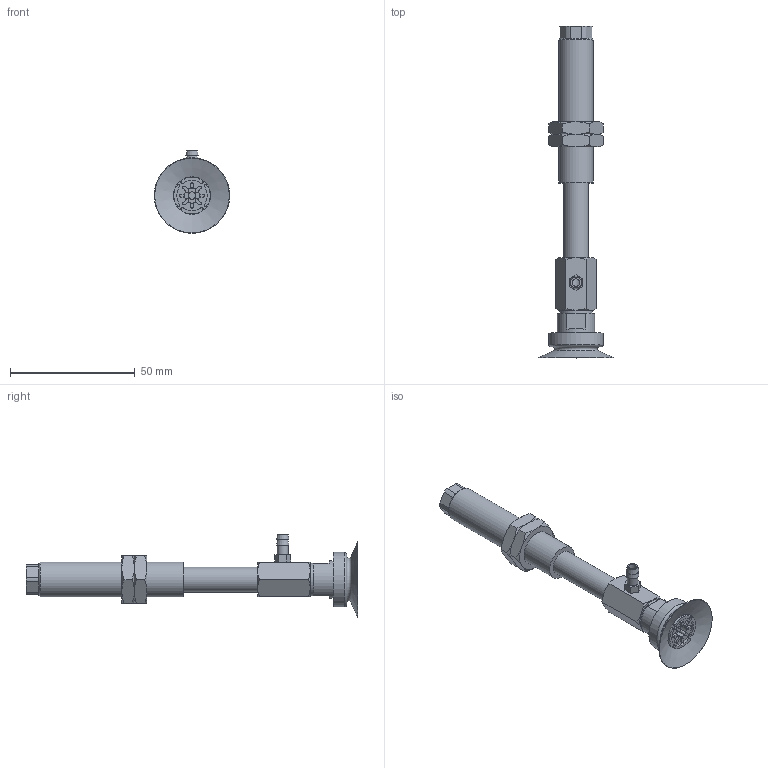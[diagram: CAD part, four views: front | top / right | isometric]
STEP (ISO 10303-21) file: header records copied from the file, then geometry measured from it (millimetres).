
FILE_DESCRIPTION(('STEP AP203'),'1');
FILE_NAME('-T.stp','2025-02-28T06:15:11',(' '),(' '),'Spatial InterOp 3D',' ',' ');
FILE_SCHEMA(('CONFIG_CONTROL_DESIGN'));
Length unit declared in the file: millimetre
Products named in the file (7): BNABPAYS-30-30-※-T; NAPAYS-30B-30--M; NAPAYS-30B-30--F; Nut-25-S; CONNECTOR-30B-30-PA; T; BPAG-30-※
Assembly tree (7 placements, depth 2):
  BNABPAYS-30-30-※-T
    NAPAYS-30B-30--M
    NAPAYS-30B-30--F
    Nut-25-S  x2
    CONNECTOR-30B-30-PA
    T
    BPAG-30-※
Bounding box: 30.3 x 133.2 x 33.15 mm (x, y, z)
Volume: 20613.2 mm3; surface area: 15511.3 mm2
Topology: 7 solids, 7 shells, 216 faces, 489 edges, 308 vertices
Faces by surface type: plane 99, cylinder 61, cone 54, torus 2
Full cylindrical faces by diameter (mm): 3 x3, 4.134 x2, 4.3 x1, 4.6 x1, 4.917 x1, 5 x2, 6 x1, 10 x2, 12.917 x2, 13 x1, 14 x1, 15 x1, 22 x1
Entity records: 5914 total; most frequent: CARTESIAN_POINT 1276, DIRECTION 930, ORIENTED_EDGE 808, EDGE_CURVE 404, AXIS2_PLACEMENT_3D 376, VERTEX_POINT 278, EDGE_LOOP 260, FACE_OUTER_BOUND 213
